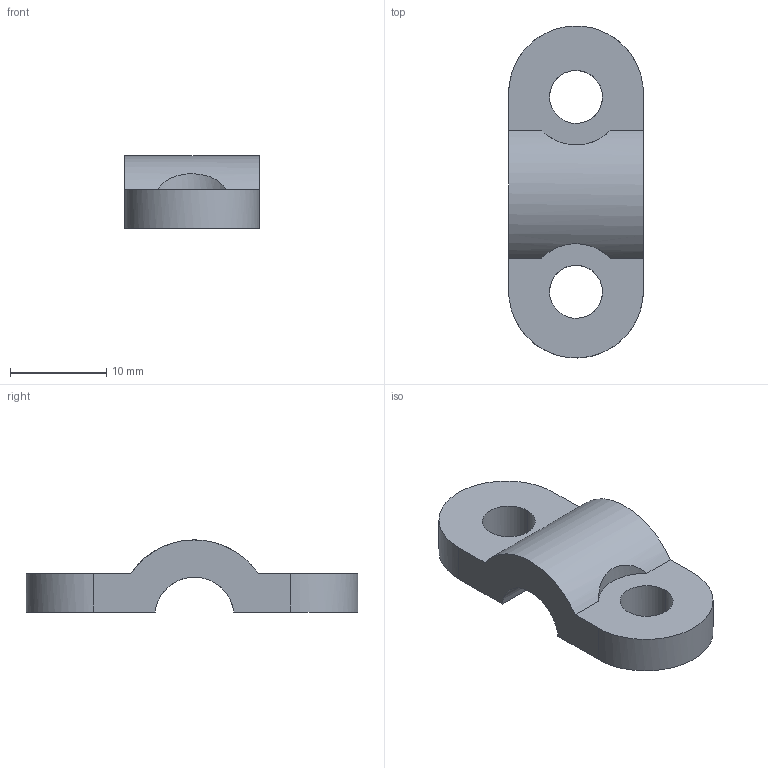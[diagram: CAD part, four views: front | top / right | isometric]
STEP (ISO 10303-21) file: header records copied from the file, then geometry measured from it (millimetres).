
FILE_DESCRIPTION (( 'STEP AP203' ), '1' );
FILE_NAME ('ROD CLASP.STEP', '2012-08-20T19:15:39', ( '' ), ( '' ), 'SwSTEP 2.0', 'SolidWorks 2012', '' );
FILE_SCHEMA (( 'CONFIG_CONTROL_DESIGN' ));
Length unit declared in the file: millimetre
Products named in the file (1): ROD CLASP
Bounding box: 14 x 34.5 x 7.5 mm (x, y, z)
Volume: 1702.7 mm3; surface area: 1380.7 mm2
Topology: 1 solids, 1 shells, 18 faces, 48 edges, 32 vertices
Faces by surface type: cylinder 11, plane 7
Entity records: 953 total; most frequent: CARTESIAN_POINT 511, ORIENTED_EDGE 96, EDGE_CURVE 48, B_SPLINE_CURVE_WITH_KNOTS 48, DIRECTION 38, VERTEX_POINT 32, EDGE_LOOP 22, AXIS2_PLACEMENT_3D 19
